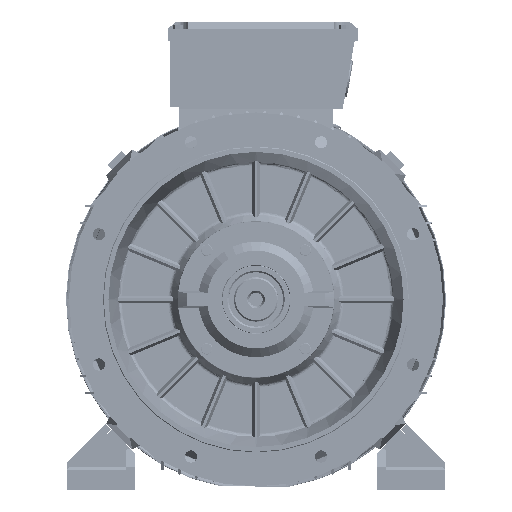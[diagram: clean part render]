
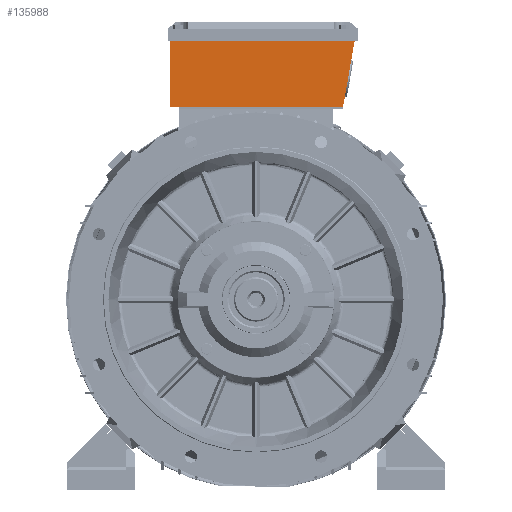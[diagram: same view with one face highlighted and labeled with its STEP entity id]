
A CAD part, left-side view. The second image highlights one B-rep face of the part: STEP entity #135988.
In plain terms, the highlighted planar face has unit normal (-1, 0, 0).
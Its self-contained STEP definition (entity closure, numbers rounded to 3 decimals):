
#7562 = ORIENTED_EDGE ( 'NONE', *, *, #42102, .T. ) ;
#32307 = ORIENTED_EDGE ( 'NONE', *, *, #58383, .T. ) ;
#32666 = DIRECTION ( 'NONE',  ( 0., -0.174, 0.985 ) ) ;
#39417 = CARTESIAN_POINT ( 'NONE',  ( -62.408, 130.487, 278.917 ) ) ;
#42102 = EDGE_CURVE ( 'NONE', #263752, #367177, #150930, .T. ) ;
#58383 = EDGE_CURVE ( 'NONE', #205917, #154533, #238791, .T. ) ;
#72611 = CARTESIAN_POINT ( 'NONE',  ( -62.408, -123.442, 278.917 ) ) ;
#81015 = CARTESIAN_POINT ( 'NONE',  ( -62.408, 130.487, 375.917 ) ) ;
#89447 = DIRECTION ( 'NONE',  ( 0., -1., 0. ) ) ;
#100656 = DIRECTION ( 'NONE',  ( 0., -1., 0. ) ) ;
#110352 = AXIS2_PLACEMENT_3D ( 'NONE', #351403, #230758, #89447 ) ;
#123069 = DIRECTION ( 'NONE',  ( 0., 0., -1. ) ) ;
#124683 = FACE_OUTER_BOUND ( 'NONE', #343088, .T. ) ;
#135988 = ADVANCED_FACE ( 'NONE', ( #124683 ), #238037, .T. ) ;
#148316 = EDGE_CURVE ( 'NONE', #367177, #205917, #156433, .T. ) ;
#148985 = ORIENTED_EDGE ( 'NONE', *, *, #148316, .T. ) ;
#149654 = CARTESIAN_POINT ( 'NONE',  ( -62.408, -122.913, 275.917 ) ) ;
#150930 = LINE ( 'NONE', #39417, #163633 ) ;
#154533 = VERTEX_POINT ( 'NONE', #317497 ) ;
#156433 = LINE ( 'NONE', #269791, #347616 ) ;
#159295 = CARTESIAN_POINT ( 'NONE',  ( -62.408, 130.487, 278.917 ) ) ;
#163633 = VECTOR ( 'NONE', #123069, 1000. ) ;
#178396 = EDGE_CURVE ( 'NONE', #154533, #263752, #365363, .T. ) ;
#205917 = VERTEX_POINT ( 'NONE', #72611 ) ;
#218452 = VECTOR ( 'NONE', #32666, 1000. ) ;
#230758 = DIRECTION ( 'NONE',  ( -1., 0., 0. ) ) ;
#235627 = VECTOR ( 'NONE', #305883, 1000. ) ;
#238037 = PLANE ( 'NONE',  #110352 ) ;
#238791 = LINE ( 'NONE', #149654, #218452 ) ;
#243949 = ORIENTED_EDGE ( 'NONE', *, *, #178396, .T. ) ;
#263752 = VERTEX_POINT ( 'NONE', #278829 ) ;
#269791 = CARTESIAN_POINT ( 'NONE',  ( -62.408, 130.487, 278.917 ) ) ;
#278829 = CARTESIAN_POINT ( 'NONE',  ( -62.408, 130.487, 375.917 ) ) ;
#305883 = DIRECTION ( 'NONE',  ( 0., 1., 0. ) ) ;
#317497 = CARTESIAN_POINT ( 'NONE',  ( -62.408, -140.545, 375.917 ) ) ;
#343088 = EDGE_LOOP ( 'NONE', ( #148985, #32307, #243949, #7562 ) ) ;
#347616 = VECTOR ( 'NONE', #100656, 1000. ) ;
#351403 = CARTESIAN_POINT ( 'NONE',  ( -62.408, 116.987, 275.917 ) ) ;
#365363 = LINE ( 'NONE', #81015, #235627 ) ;
#367177 = VERTEX_POINT ( 'NONE', #159295 ) ;
